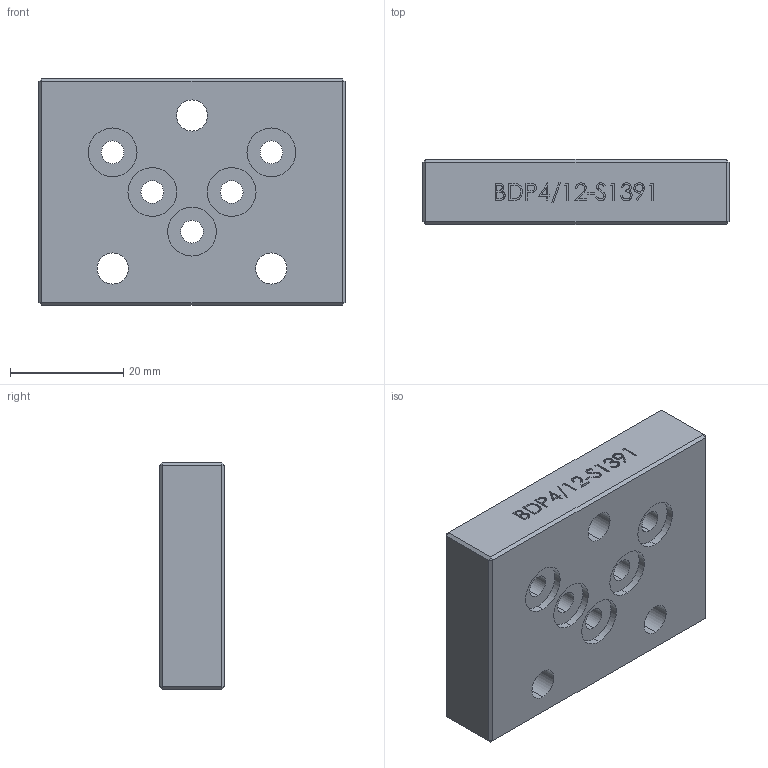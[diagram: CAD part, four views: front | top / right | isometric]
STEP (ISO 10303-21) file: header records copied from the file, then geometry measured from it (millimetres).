
FILE_DESCRIPTION (( 'STEP AP214' ), '1' );
FILE_NAME ('BDP4_12-S1391.STEP', '2017-04-26T06:22:45', ( '' ), ( '' ), 'SwSTEP 2.0', 'SolidWorks 2016', '' );
FILE_SCHEMA (( 'AUTOMOTIVE_DESIGN' ));
Length unit declared in the file: millimetre
Products named in the file (1): BDP4_12-S1391
Bounding box: 54 x 11.5 x 40 mm (x, y, z)
Volume: 22939.6 mm3; surface area: 7575.7 mm2
Topology: 1 solids, 1 shells, 218 faces, 552 edges, 360 vertices
Faces by surface type: plane 126, bspline 66, cylinder 26
Entity records: 10016 total; most frequent: CARTESIAN_POINT 4997, ORIENTED_EDGE 1104, DIRECTION 778, EDGE_CURVE 552, LINE 368, VECTOR 368, VERTEX_POINT 360, EDGE_LOOP 258
